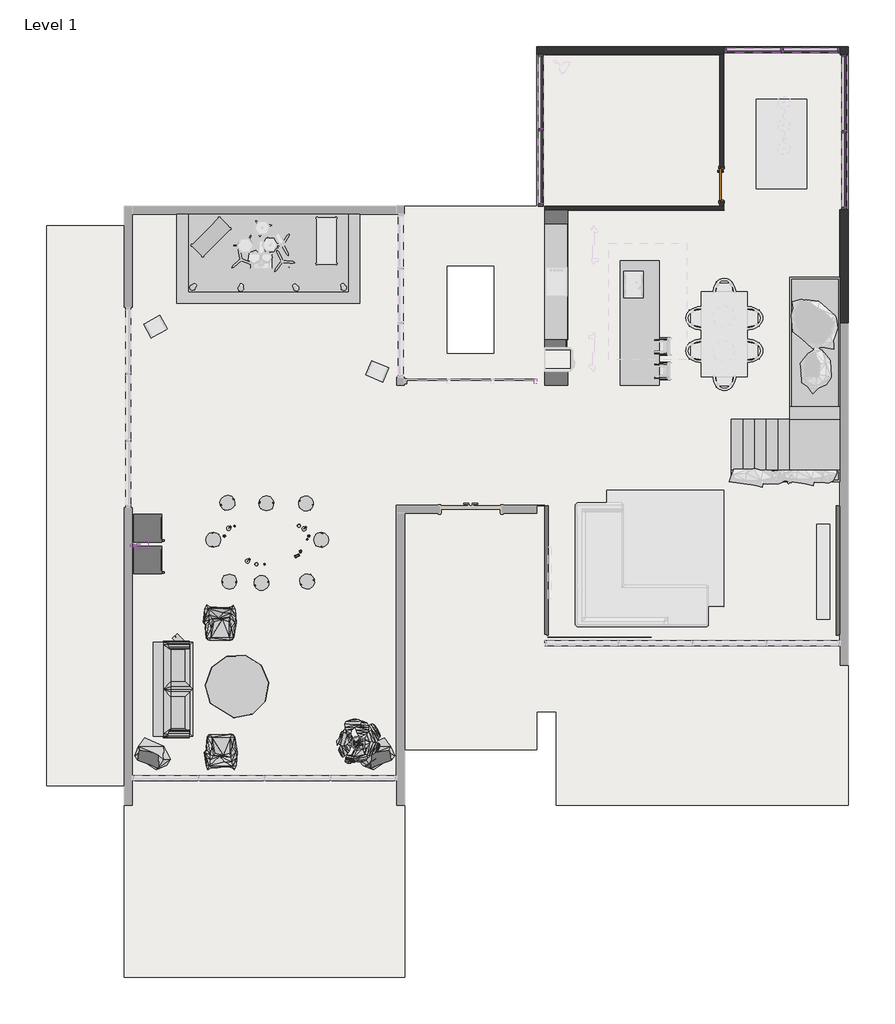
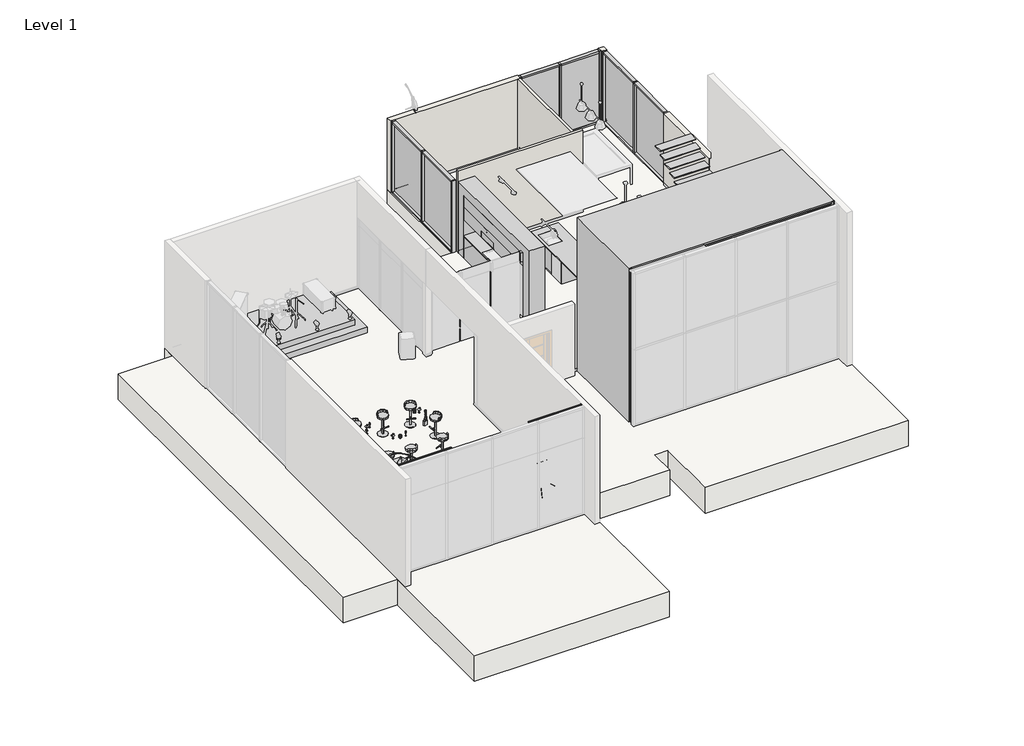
# One storey, part 2 of 6: 31 geographic elements, 22 members, 6 plates, 5 proxies, 4 walls, 1 door, 1 slab, 1 stair, 1 stair flight.
"""IFC4 building model written with IfcOpenShell, lengths in millimetres."""

from ifc_helpers import new_model, si_unit, origin, origin_with_axes, place, context, project, spatial, polyline, outline, extrude, faceted_brep, transform, mapped, element, save
from components import generic_models_2_generic_models_2_3d615542, generic_models_3_generic_models_3_a327e094, generic_models_5_generic_models_5_d8dfdb0c, generic_models_6_generic_models_6_396b13c4, generic_models_8_generic_models_8_2f0d4162, door_interior_single_flush_panel_wood_door_interior_single_6c8a464a, geographic_element_f887d327, enscape_assetdefinition_armchair_039_enscape_assetdefinition_260125eb, enscape_assetdefinition_armchair_039_enscape_assetdefinition_a928cae4, enscape_assetdefinition_bottle_005_wine_enscape_f84a86c7, enscape_assetdefinition_bottle_009_enscape_assetdefinition_91462ea6, enscape_assetdefinition_curtain_005_enscape_assetdefinition_7c1d9668, enscape_assetdefinition_curtain_005_enscape_assetdefinition_cb05bf78, enscape_assetdefinition_floor_lamp_022_enscape_d7bdce68, enscape_assetdefinition_glas_010_cocktail_enscape_a5b9dfca, enscape_assetdefinition_glass_001_champagne_enscape_18e854bc, enscape_assetdefinition_glass_007_enscape_assetdefinition_f580d953, enscape_assetdefinition_glass_012_wine_enscape_47986107, enscape_assetdefinition_high_stool_008_enscape_0d8ca105, enscape_assetdefinition_refrigerator_003_enscape_9b18afd8, enscape_assetdefinition_sofa_022_enscape_assetdefinition_23783522, enscape_assetdefinition_speaker_005_enscape_assetdefinition_121e6e26, enscape_assetdefinition_table_079_enscape_assetdefinition_5f5be555, rectangular_mullion_rectangular_mullion_1_b61fd584, rectangular_mullion_rectangular_mullion_1_bbb34006, rectangular_mullion_rectangular_mullion_1_6815c58f, rectangular_mullion_rectangular_mullion_1_f5ac44b7, rectangular_mullion_rectangular_mullion_1_65dfae36, rectangular_mullion_rectangular_mullion_1_45be0f26, system_panel_glazed_8e322f85, system_panel_glazed_21b5dabc, system_panel_glazed_1fbcc06b, stairs_1_stairs_1_c7833afe, stair_flight_b7d4ead4

model = new_model("IFC4")

# Units and contexts
model_context = context("Model", 3, world=origin())
ifc_project = project(units=[si_unit("LENGTHUNIT", "METRE", prefix="MILLI")], contexts=[model_context])

# Site, building, storey
site = spatial("IfcSite", under=ifc_project)
building = spatial("IfcBuilding", under=site)
storey = spatial("IfcBuildingStorey", under=building, Name="Level 1", Elevation=1000.0)

# Proxies
placement = place(None, origin())
generic_models_2_generic_models_2_shape = generic_models_2_generic_models_2_3d615542(model_context)
element("IfcBuildingElementProxy", 1, Name="Generic Models 2 : Generic Models 2", ObjectType="Generic Models 2 : Generic Models 2", at=placement, inside=storey, context=model_context, shape_type="MappedRepresentation", body=[
    mapped(generic_models_2_generic_models_2_shape, transform((0.0, 0.0, 0.0), x_axis=(1.0, 0.0, 0.0), y_axis=(0.0, 1.0, 0.0), z_axis=(0.0, 0.0, 1.0))),
])
generic_models_3_generic_models_3_shape = generic_models_3_generic_models_3_a327e094(model_context)
element("IfcBuildingElementProxy", 2, Name="Generic Models 3 : Generic Models 3", ObjectType="Generic Models 3 : Generic Models 3", at=placement, inside=storey, context=model_context, shape_type="MappedRepresentation", body=[
    mapped(generic_models_3_generic_models_3_shape, transform((0.0, 0.0, 0.0), x_axis=(1.0, 0.0, 0.0), y_axis=(0.0, 1.0, 0.0), z_axis=(0.0, 0.0, 1.0))),
])
generic_models_5_generic_models_5_shape = generic_models_5_generic_models_5_d8dfdb0c(model_context)
element("IfcBuildingElementProxy", 3, Name="Generic Models 5 : Generic Models 5", ObjectType="Generic Models 5 : Generic Models 5", at=placement, inside=storey, context=model_context, shape_type="MappedRepresentation", body=[
    mapped(generic_models_5_generic_models_5_shape, transform((0.0, 0.0, 0.0), x_axis=(1.0, 0.0, 0.0), y_axis=(0.0, 1.0, 0.0), z_axis=(0.0, 0.0, 1.0))),
])
generic_models_6_generic_models_6_shape = generic_models_6_generic_models_6_396b13c4(model_context)
element("IfcBuildingElementProxy", 4, Name="Generic Models 6 : Generic Models 6", ObjectType="Generic Models 6 : Generic Models 6", at=placement, inside=storey, context=model_context, shape_type="MappedRepresentation", body=[
    mapped(generic_models_6_generic_models_6_shape, transform((0.0, 0.0, 0.0), x_axis=(1.0, 0.0, 0.0), y_axis=(0.0, 1.0, 0.0), z_axis=(0.0, 0.0, 1.0))),
])
generic_models_8_generic_models_8_shape = generic_models_8_generic_models_8_2f0d4162(model_context)
element("IfcBuildingElementProxy", 5, Name="Generic Models 8 : Generic Models 8", ObjectType="Generic Models 8 : Generic Models 8", at=placement, inside=storey, context=model_context, shape_type="MappedRepresentation", body=[
    mapped(generic_models_8_generic_models_8_shape, transform((0.0, 0.0, 0.0), x_axis=(1.0, 0.0, 0.0), y_axis=(0.0, 1.0, 0.0), z_axis=(0.0, 0.0, 1.0))),
])

# Door
door_interior_single_flush_panel_wood_door_interior_single_shape = door_interior_single_flush_panel_wood_door_interior_single_6c8a464a(model_context)
element("IfcDoor", 6, ObjectType="Door-Interior-Single-Flush_Panel-Wood : Door-Interior-Single-Flush_Panel-Wood", at=placement, inside=storey, context=model_context, shape_type="MappedRepresentation", body=[
    mapped(door_interior_single_flush_panel_wood_door_interior_single_shape, transform((21489.9587784, 13716.9206658, 1000.0), x_axis=(0.0, -1.0, 0.0), y_axis=(1.0, 0.0, 0.0), z_axis=(0.0, 0.0, 1.0))),
])

# Geographic elements
geographic_element_shape = geographic_element_f887d327(model_context)
element("IfcGeographicElement", 7, ObjectType="Enscape AssetDefinition - Potted Plant 120 Monstera Deliciosa : Enscape AssetDefinition - Potted Plant 120 Monstera Deliciosa", at=placement, inside=storey, context=model_context, shape_type="MappedRepresentation", body=[
    mapped(geographic_element_shape, transform((12153.0541219, -636.0793342, 1000.0), x_axis=(1.0, 0.0, 0.0), y_axis=(0.0, 1.0, 0.0), z_axis=(0.0, 0.0, 1.0))),
])
enscape_assetdefinition_armchair_039_enscape_assetdefinition_shape = enscape_assetdefinition_armchair_039_enscape_assetdefinition_260125eb(model_context)
element("IfcGeographicElement", 8, ObjectType="Enscape AssetDefinition - Armchair 039 : Enscape AssetDefinition - Armchair 039", at=placement, inside=storey, context=model_context, shape_type="MappedRepresentation", body=[
    mapped(enscape_assetdefinition_armchair_039_enscape_assetdefinition_shape, transform((8603.1337784, 2446.9206658, 1000.0), x_axis=(1.0, 0.0, 0.0), y_axis=(0.0, 1.0, 0.0), z_axis=(0.0, 0.0, 1.0))),
])
enscape_assetdefinition_armchair_039_enscape_assetdefinition_2_shape = enscape_assetdefinition_armchair_039_enscape_assetdefinition_a928cae4(model_context)
element("IfcGeographicElement", 9, ObjectType="Enscape AssetDefinition - Armchair 039 : Enscape AssetDefinition - Armchair 039", at=placement, inside=storey, context=model_context, shape_type="MappedRepresentation", body=[
    mapped(enscape_assetdefinition_armchair_039_enscape_assetdefinition_2_shape, transform((8628.8736845, -852.1678875, 1000.0), x_axis=(1.0, 0.0, 0.0), y_axis=(0.0, 1.0, 0.0), z_axis=(0.0, 0.0, 1.0))),
])
enscape_assetdefinition_bottle_005_wine_enscape_shape = enscape_assetdefinition_bottle_005_wine_enscape_f84a86c7(model_context)
element("IfcGeographicElement", 10, ObjectType="Enscape AssetDefinition - Bottle 005 Wine : Enscape AssetDefinition - Bottle 005 Wine", at=placement, inside=storey, context=model_context, shape_type="MappedRepresentation", body=[
    mapped(enscape_assetdefinition_bottle_005_wine_enscape_shape, transform((10672.5198078, 4290.401573, 1900.0), x_axis=(1.0, 0.0, 0.0), y_axis=(0.0, 1.0, 0.0), z_axis=(0.0, 0.0, 1.0))),
])
enscape_assetdefinition_bottle_009_enscape_assetdefinition_shape = enscape_assetdefinition_bottle_009_enscape_assetdefinition_91462ea6(model_context)
element("IfcGeographicElement", 11, ObjectType="Enscape AssetDefinition - Bottle 009 : Enscape AssetDefinition - Bottle 009", at=placement, inside=storey, context=model_context, shape_type="MappedRepresentation", body=[
    mapped(enscape_assetdefinition_bottle_009_enscape_assetdefinition_shape, transform((10583.0264369, 4178.7532144, 1900.0), x_axis=(0.920504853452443, 0.39073112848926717, 0.0), y_axis=(-0.39073112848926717, 0.920504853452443, 0.0), z_axis=(0.0, 0.0, 1.0))),
])
enscape_assetdefinition_curtain_005_enscape_assetdefinition_shape = enscape_assetdefinition_curtain_005_enscape_assetdefinition_7c1d9668(model_context)
element("IfcGeographicElement", 12, ObjectType="Enscape AssetDefinition - Curtain 005 : Enscape AssetDefinition - Curtain 005 2", at=placement, inside=storey, context=model_context, shape_type="MappedRepresentation", body=[
    mapped(enscape_assetdefinition_curtain_005_enscape_assetdefinition_shape, transform((7343.1337784, -1433.0793342, 1000.0), x_axis=(-1.0, 0.0, 0.0), y_axis=(0.0, -1.0, 0.0), z_axis=(0.0, 0.0, 1.0))),
])
enscape_assetdefinition_curtain_005_enscape_assetdefinition_2_shape = enscape_assetdefinition_curtain_005_enscape_assetdefinition_cb05bf78(model_context)
element("IfcGeographicElement", 13, ObjectType="Enscape AssetDefinition - Curtain 005 : Enscape AssetDefinition - Curtain 005 2", at=placement, inside=storey, context=model_context, shape_type="MappedRepresentation", body=[
    mapped(enscape_assetdefinition_curtain_005_enscape_assetdefinition_2_shape, transform((12153.0541219, -1433.0793342, 1000.0), x_axis=(1.0, 0.0, 0.0), y_axis=(0.0, 1.0, 0.0), z_axis=(0.0, 0.0, 1.0))),
])
enscape_assetdefinition_floor_lamp_022_enscape_shape = enscape_assetdefinition_floor_lamp_022_enscape_d7bdce68(model_context)
element("IfcGeographicElement", 14, ObjectType="Enscape AssetDefinition - Floor Lamp 022 : Enscape AssetDefinition - Floor Lamp 022", at=placement, inside=storey, context=model_context, shape_type="MappedRepresentation", body=[
    mapped(enscape_assetdefinition_floor_lamp_022_enscape_shape, transform((8249.7319068, 1304.8291885, 1000.0), x_axis=(0.7071067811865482, 0.707106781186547, 0.0), y_axis=(-0.707106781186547, 0.7071067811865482, 0.0), z_axis=(0.0, 0.0, 1.0))),
])
enscape_assetdefinition_glas_010_cocktail_enscape_shape = enscape_assetdefinition_glas_010_cocktail_enscape_a5b9dfca(model_context)
element("IfcGeographicElement", 15, ObjectType="Enscape AssetDefinition - Glas 010 Cocktail : Enscape AssetDefinition - Glas 010 Cocktail", at=placement, inside=storey, context=model_context, shape_type="MappedRepresentation", body=[
    mapped(enscape_assetdefinition_glas_010_cocktail_enscape_shape, transform((8824.7641636, 4881.1648044, 1900.0), x_axis=(0.5735764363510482, 0.8191520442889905, 0.0), y_axis=(-0.8191520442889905, 0.5735764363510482, 0.0), z_axis=(0.0, 0.0, 1.0))),
])
element("IfcGeographicElement", 16, ObjectType="Enscape AssetDefinition - Glas 010 Cocktail : Enscape AssetDefinition - Glas 010 Cocktail", at=placement, inside=storey, context=model_context, shape_type="MappedRepresentation", body=[
    mapped(enscape_assetdefinition_glas_010_cocktail_enscape_shape, transform((9308.8736845, 4042.2710273, 1900.0), x_axis=(0.5735764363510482, 0.8191520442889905, 0.0), y_axis=(-0.8191520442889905, 0.5735764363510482, 0.0), z_axis=(0.0, 0.0, 1.0))),
])
element("IfcGeographicElement", 17, ObjectType="Enscape AssetDefinition - Glas 010 Cocktail : Enscape AssetDefinition - Glas 010 Cocktail", at=placement, inside=storey, context=model_context, shape_type="MappedRepresentation", body=[
    mapped(enscape_assetdefinition_glas_010_cocktail_enscape_shape, transform((10759.0189625, 4870.6635108, 1900.0), x_axis=(0.5735764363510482, 0.8191520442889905, 0.0), y_axis=(-0.8191520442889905, 0.5735764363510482, 0.0), z_axis=(0.0, 0.0, 1.0))),
])
enscape_assetdefinition_glass_001_champagne_enscape_shape = enscape_assetdefinition_glass_001_champagne_enscape_18e854bc(model_context)
element("IfcGeographicElement", 18, ObjectType="Enscape AssetDefinition - Glass 001 Champagne : Enscape AssetDefinition - Glass 001 Champagne", at=placement, inside=storey, context=model_context, shape_type="MappedRepresentation", body=[
    mapped(enscape_assetdefinition_glass_001_champagne_enscape_shape, transform((10843.6872019, 4600.8718243, 1900.0), x_axis=(1.0, 0.0, 0.0), y_axis=(0.0, 1.0, 0.0), z_axis=(0.0, 0.0, 1.0))),
])
element("IfcGeographicElement", 19, ObjectType="Enscape AssetDefinition - Glass 001 Champagne : Enscape AssetDefinition - Glass 001 Champagne", at=placement, inside=storey, context=model_context, shape_type="MappedRepresentation", body=[
    mapped(enscape_assetdefinition_glass_001_champagne_enscape_shape, transform((8972.0078119, 4942.7974269, 1900.0), x_axis=(1.0, 0.0, 0.0), y_axis=(0.0, 1.0, 0.0), z_axis=(0.0, 0.0, 1.0))),
])
element("IfcGeographicElement", 20, ObjectType="Enscape AssetDefinition - Glass 001 Champagne : Enscape AssetDefinition - Glass 001 Champagne", at=placement, inside=storey, context=model_context, shape_type="MappedRepresentation", body=[
    mapped(enscape_assetdefinition_glass_001_champagne_enscape_shape, transform((9741.3634148, 3964.5354461, 1900.0), x_axis=(1.0, 0.0, 0.0), y_axis=(0.0, 1.0, 0.0), z_axis=(0.0, 0.0, 1.0))),
])
enscape_assetdefinition_glass_007_enscape_assetdefinition_shape = enscape_assetdefinition_glass_007_enscape_assetdefinition_f580d953(model_context)
element("IfcGeographicElement", 21, ObjectType="Enscape AssetDefinition - Glass 007 : Enscape AssetDefinition - Glass 007", at=placement, inside=storey, context=model_context, shape_type="MappedRepresentation", body=[
    mapped(enscape_assetdefinition_glass_007_enscape_assetdefinition_shape, transform((9536.5868219, 3960.5513757, 1900.0), x_axis=(1.0, 0.0, 0.0), y_axis=(0.0, 1.0, 0.0), z_axis=(0.0, 0.0, 1.0))),
])
element("IfcGeographicElement", 22, ObjectType="Enscape AssetDefinition - Glass 007 : Enscape AssetDefinition - Glass 007", at=placement, inside=storey, context=model_context, shape_type="MappedRepresentation", body=[
    mapped(enscape_assetdefinition_glass_007_enscape_assetdefinition_shape, transform((10629.4694683, 4947.8002801, 1900.0), x_axis=(1.0, 0.0, 0.0), y_axis=(0.0, 1.0, 0.0), z_axis=(0.0, 0.0, 1.0))),
])
enscape_assetdefinition_glass_012_wine_enscape_shape = enscape_assetdefinition_glass_012_wine_enscape_47986107(model_context)
element("IfcGeographicElement", 23, ObjectType="Enscape AssetDefinition - Glass 012 Wine : Enscape AssetDefinition - Glass 012 Wine", at=placement, inside=storey, context=model_context, shape_type="MappedRepresentation", body=[
    mapped(enscape_assetdefinition_glass_012_wine_enscape_shape, transform((8715.486622, 4685.4446791, 1900.0), x_axis=(1.0, 0.0, 0.0), y_axis=(0.0, 1.0, 0.0), z_axis=(0.0, 0.0, 1.0))),
])
element("IfcGeographicElement", 24, ObjectType="Enscape AssetDefinition - Glass 012 Wine : Enscape AssetDefinition - Glass 012 Wine", at=placement, inside=storey, context=model_context, shape_type="MappedRepresentation", body=[
    mapped(enscape_assetdefinition_glass_012_wine_enscape_shape, transform((10886.1235135, 4685.4446791, 1900.0), x_axis=(1.0, 0.0, 0.0), y_axis=(0.0, 1.0, 0.0), z_axis=(0.0, 0.0, 1.0))),
])
enscape_assetdefinition_high_stool_008_enscape_shape = enscape_assetdefinition_high_stool_008_enscape_0d8ca105(model_context)
element("IfcGeographicElement", 25, ObjectType="Enscape AssetDefinition - High Stool 008 : Enscape AssetDefinition - High Stool 008", at=placement, inside=storey, context=model_context, shape_type="MappedRepresentation", body=[
    mapped(enscape_assetdefinition_high_stool_008_enscape_shape, transform((8793.0889586, 5541.813617, 1000.0), x_axis=(0.891006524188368, 0.45399049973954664, 0.0), y_axis=(-0.45399049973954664, 0.891006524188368, 0.0), z_axis=(0.0, 0.0, 1.0))),
])
element("IfcGeographicElement", 26, ObjectType="Enscape AssetDefinition - High Stool 008 : Enscape AssetDefinition - High Stool 008", at=placement, inside=storey, context=model_context, shape_type="MappedRepresentation", body=[
    mapped(enscape_assetdefinition_high_stool_008_enscape_shape, transform((10812.7813029, 5526.559756, 1000.0), x_axis=(0.9612536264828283, -0.2756654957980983, 0.0), y_axis=(0.2756654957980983, 0.9612536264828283, 0.0), z_axis=(0.0, 0.0, 1.0))),
])
element("IfcGeographicElement", 27, ObjectType="Enscape AssetDefinition - High Stool 008 : Enscape AssetDefinition - High Stool 008", at=placement, inside=storey, context=model_context, shape_type="MappedRepresentation", body=[
    mapped(enscape_assetdefinition_high_stool_008_enscape_shape, transform((9792.7813029, 5526.559756, 1000.0), x_axis=(1.0, 0.0, 0.0), y_axis=(0.0, 1.0, 0.0), z_axis=(0.0, 0.0, 1.0))),
])
element("IfcGeographicElement", 28, ObjectType="Enscape AssetDefinition - High Stool 008 : Enscape AssetDefinition - High Stool 008", at=placement, inside=storey, context=model_context, shape_type="MappedRepresentation", body=[
    mapped(enscape_assetdefinition_high_stool_008_enscape_shape, transform((8423.1337784, 4586.9206658, 1000.0), x_axis=(0.0, 1.0, 0.0), y_axis=(-1.0, 0.0, 0.0), z_axis=(0.0, 0.0, 1.0))),
])
element("IfcGeographicElement", 29, ObjectType="Enscape AssetDefinition - High Stool 008 : Enscape AssetDefinition - High Stool 008", at=placement, inside=storey, context=model_context, shape_type="MappedRepresentation", body=[
    mapped(enscape_assetdefinition_high_stool_008_enscape_shape, transform((8839.8834096, 3517.3269619, 1000.0), x_axis=(-1.0, 0.0, 0.0), y_axis=(0.0, -1.0, 0.0), z_axis=(0.0, 0.0, 1.0))),
])
element("IfcGeographicElement", 30, ObjectType="Enscape AssetDefinition - High Stool 008 : Enscape AssetDefinition - High Stool 008", at=placement, inside=storey, context=model_context, shape_type="MappedRepresentation", body=[
    mapped(enscape_assetdefinition_high_stool_008_enscape_shape, transform((9664.0706693, 3476.5312211, 1000.0), x_axis=(-0.9659258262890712, -0.25881904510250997, 0.0), y_axis=(0.25881904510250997, -0.9659258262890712, 0.0), z_axis=(0.0, 0.0, 1.0))),
])
element("IfcGeographicElement", 31, ObjectType="Enscape AssetDefinition - High Stool 008 : Enscape AssetDefinition - High Stool 008", at=placement, inside=storey, context=model_context, shape_type="MappedRepresentation", body=[
    mapped(enscape_assetdefinition_high_stool_008_enscape_shape, transform((10839.8834096, 3517.3269619, 1000.0), x_axis=(-0.9396926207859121, -0.3420201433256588, 0.0), y_axis=(0.3420201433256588, -0.9396926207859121, 0.0), z_axis=(0.0, 0.0, 1.0))),
])
element("IfcGeographicElement", 32, ObjectType="Enscape AssetDefinition - High Stool 008 : Enscape AssetDefinition - High Stool 008", at=placement, inside=storey, context=model_context, shape_type="MappedRepresentation", body=[
    mapped(enscape_assetdefinition_high_stool_008_enscape_shape, transform((11203.1337784, 4586.9206658, 1000.0), x_axis=(0.0, -1.0, 0.0), y_axis=(1.0, 0.0, 0.0), z_axis=(0.0, 0.0, 1.0))),
])
enscape_assetdefinition_refrigerator_003_enscape_shape = enscape_assetdefinition_refrigerator_003_enscape_9b18afd8(model_context)
element("IfcGeographicElement", 33, ObjectType="Enscape AssetDefinition - Refrigerator 003 : Enscape AssetDefinition - Refrigerator 003", at=placement, inside=storey, context=model_context, shape_type="MappedRepresentation", body=[
    mapped(enscape_assetdefinition_refrigerator_003_enscape_shape, transform((6743.1337784, 4067.3763892, 1000.0), x_axis=(0.0, 1.0, 0.0), y_axis=(-1.0, 0.0, 0.0), z_axis=(0.0, 0.0, 1.0))),
])
element("IfcGeographicElement", 34, ObjectType="Enscape AssetDefinition - Refrigerator 003 : Enscape AssetDefinition - Refrigerator 003", at=placement, inside=storey, context=model_context, shape_type="MappedRepresentation", body=[
    mapped(enscape_assetdefinition_refrigerator_003_enscape_shape, transform((6743.1337784, 4887.3763892, 1000.0), x_axis=(0.0, 1.0, 0.0), y_axis=(-1.0, 0.0, 0.0), z_axis=(0.0, 0.0, 1.0))),
])
enscape_assetdefinition_sofa_022_enscape_assetdefinition_shape = enscape_assetdefinition_sofa_022_enscape_assetdefinition_23783522(model_context)
element("IfcGeographicElement", 35, ObjectType="Enscape AssetDefinition - Sofa 022 : Enscape AssetDefinition - Sofa 022", at=placement, inside=storey, context=model_context, shape_type="MappedRepresentation", body=[
    mapped(enscape_assetdefinition_sofa_022_enscape_assetdefinition_shape, transform((7443.1337784, 746.9206658, 1000.0), x_axis=(0.0, 1.0, 0.0), y_axis=(-1.0, 0.0, 0.0), z_axis=(0.0, 0.0, 1.0))),
])
enscape_assetdefinition_speaker_005_enscape_assetdefinition_shape = enscape_assetdefinition_speaker_005_enscape_assetdefinition_121e6e26(model_context)
element("IfcGeographicElement", 36, ObjectType="Enscape AssetDefinition - Speaker 005 : Enscape AssetDefinition - Speaker 005", at=placement, inside=storey, context=model_context, shape_type="MappedRepresentation", body=[
    mapped(enscape_assetdefinition_speaker_005_enscape_assetdefinition_shape, transform((6343.1337784, 4454.720421, 4392.8497555), x_axis=(0.0, 1.0, 0.0), y_axis=(-1.0, 0.0, 0.0), z_axis=(0.0, 0.0, 1.0))),
])
enscape_assetdefinition_table_079_enscape_assetdefinition_shape = enscape_assetdefinition_table_079_enscape_assetdefinition_5f5be555(model_context)
element("IfcGeographicElement", 37, ObjectType="Enscape AssetDefinition - Table 079 : Enscape AssetDefinition - Table 079", at=placement, inside=storey, context=model_context, shape_type="MappedRepresentation", body=[
    mapped(enscape_assetdefinition_table_079_enscape_assetdefinition_shape, transform((9043.1337784, 826.9206658, 1000.0), x_axis=(1.0, 0.0, 0.0), y_axis=(0.0, 1.0, 0.0), z_axis=(0.0, 0.0, 1.0))),
])

# Members
rectangular_mullion_rectangular_mullion_1_shape = rectangular_mullion_rectangular_mullion_1_b61fd584(model_context)
element("IfcMember", 38, ObjectType="Rectangular Mullion : Rectangular Mullion 1", at=placement, inside=storey, context=model_context, shape_type="MappedRepresentation", body=[
    mapped(rectangular_mullion_rectangular_mullion_1_shape, transform((23043.1337784, 17166.9206658, 1000.0), x_axis=(-1.0, 0.0, 0.0), y_axis=(0.0, 1.0, 0.0), z_axis=(0.0, 0.0, -1.0))),
])
element("IfcMember", 39, ObjectType="Rectangular Mullion : Rectangular Mullion 1", at=placement, inside=storey, context=model_context, shape_type="MappedRepresentation", body=[
    mapped(rectangular_mullion_rectangular_mullion_1_shape, transform((16843.1337784, 15116.9206658, 1000.0), x_axis=(0.0, -1.0, 0.0), y_axis=(-1.0, 0.0, 0.0), z_axis=(0.0, 0.0, -1.0))),
])
element("IfcMember", 40, ObjectType="Rectangular Mullion : Rectangular Mullion 1", at=placement, inside=storey, context=model_context, shape_type="MappedRepresentation", body=[
    mapped(rectangular_mullion_rectangular_mullion_1_shape, transform((24643.1337784, 15066.9206658, 1000.0), x_axis=(0.0, -1.0, 0.0), y_axis=(-1.0, 0.0, 0.0), z_axis=(0.0, 0.0, -1.0))),
])
rectangular_mullion_rectangular_mullion_1_2_shape = rectangular_mullion_rectangular_mullion_1_bbb34006(model_context)
element("IfcMember", 41, ObjectType="Rectangular Mullion : Rectangular Mullion 1", at=placement, inside=storey, context=model_context, shape_type="MappedRepresentation", body=[
    mapped(rectangular_mullion_rectangular_mullion_1_2_shape, transform((24543.1337784, 17166.9206658, 3800.0), x_axis=(1.0, 0.0, 0.0), y_axis=(0.0, 1.0, 0.0), z_axis=(0.0, 0.0, 1.0))),
])
element("IfcMember", 42, ObjectType="Rectangular Mullion : Rectangular Mullion 1", at=placement, inside=storey, context=model_context, shape_type="MappedRepresentation", body=[
    mapped(rectangular_mullion_rectangular_mullion_1_2_shape, transform((16843.1337784, 17066.9206658, 3800.0), x_axis=(0.0, 1.0, 0.0), y_axis=(-1.0, 0.0, 0.0), z_axis=(0.0, 0.0, 1.0))),
])
element("IfcMember", 43, ObjectType="Rectangular Mullion : Rectangular Mullion 1", at=placement, inside=storey, context=model_context, shape_type="MappedRepresentation", body=[
    mapped(rectangular_mullion_rectangular_mullion_1_2_shape, transform((24643.1337784, 17066.9206658, 3800.0), x_axis=(0.0, 1.0, 0.0), y_axis=(-1.0, 0.0, 0.0), z_axis=(0.0, 0.0, 1.0))),
])
element("IfcMember", 44, ObjectType="Rectangular Mullion : Rectangular Mullion 1", at=placement, inside=storey, context=model_context, shape_type="MappedRepresentation", body=[
    mapped(rectangular_mullion_rectangular_mullion_1_2_shape, transform((21543.1337784, 17166.9206658, 1000.0), x_axis=(-1.0, 0.0, 0.0), y_axis=(0.0, 1.0, 0.0), z_axis=(0.0, 0.0, -1.0))),
])
element("IfcMember", 45, ObjectType="Rectangular Mullion : Rectangular Mullion 1", at=placement, inside=storey, context=model_context, shape_type="MappedRepresentation", body=[
    mapped(rectangular_mullion_rectangular_mullion_1_2_shape, transform((16843.1337784, 13166.9206658, 1000.0), x_axis=(0.0, -1.0, 0.0), y_axis=(-1.0, 0.0, 0.0), z_axis=(0.0, 0.0, -1.0))),
])
element("IfcMember", 46, ObjectType="Rectangular Mullion : Rectangular Mullion 1", at=placement, inside=storey, context=model_context, shape_type="MappedRepresentation", body=[
    mapped(rectangular_mullion_rectangular_mullion_1_2_shape, transform((24643.1337784, 13066.9206658, 1000.0), x_axis=(0.0, -1.0, 0.0), y_axis=(-1.0, 0.0, 0.0), z_axis=(0.0, 0.0, -1.0))),
])
rectangular_mullion_rectangular_mullion_1_3_shape = rectangular_mullion_rectangular_mullion_1_6815c58f(model_context)
element("IfcMember", 47, ObjectType="Rectangular Mullion : Rectangular Mullion 1", at=placement, inside=storey, context=model_context, shape_type="MappedRepresentation", body=[
    mapped(rectangular_mullion_rectangular_mullion_1_3_shape, transform((23074.8837784, 17166.9206658, 3800.0), x_axis=(0.0, 0.0, 1.0), y_axis=(0.0, 1.0, 0.0), z_axis=(-1.0, 0.0, 0.0))),
])
element("IfcMember", 48, ObjectType="Rectangular Mullion : Rectangular Mullion 1", at=placement, inside=storey, context=model_context, shape_type="MappedRepresentation", body=[
    mapped(rectangular_mullion_rectangular_mullion_1_3_shape, transform((21606.6337784, 17166.9206658, 3800.0), x_axis=(0.0, 0.0, 1.0), y_axis=(0.0, 1.0, 0.0), z_axis=(-1.0, 0.0, 0.0))),
])
element("IfcMember", 49, ObjectType="Rectangular Mullion : Rectangular Mullion 1", at=placement, inside=storey, context=model_context, shape_type="MappedRepresentation", body=[
    mapped(rectangular_mullion_rectangular_mullion_1_3_shape, transform((23011.3837784, 17166.9206658, 1000.0), x_axis=(0.0, 0.0, -1.0), y_axis=(0.0, 1.0, 0.0), z_axis=(1.0, 0.0, 0.0))),
])
element("IfcMember", 50, ObjectType="Rectangular Mullion : Rectangular Mullion 1", at=placement, inside=storey, context=model_context, shape_type="MappedRepresentation", body=[
    mapped(rectangular_mullion_rectangular_mullion_1_3_shape, transform((24479.6337784, 17166.9206658, 1000.0), x_axis=(0.0, 0.0, -1.0), y_axis=(0.0, 1.0, 0.0), z_axis=(1.0, 0.0, 0.0))),
])
rectangular_mullion_rectangular_mullion_1_4_shape = rectangular_mullion_rectangular_mullion_1_f5ac44b7(model_context)
element("IfcMember", 51, ObjectType="Rectangular Mullion : Rectangular Mullion 1", at=placement, inside=storey, context=model_context, shape_type="MappedRepresentation", body=[
    mapped(rectangular_mullion_rectangular_mullion_1_4_shape, transform((16743.1337784, 8666.9206658, 3438.4), x_axis=(1.0, 0.0, 0.0), y_axis=(0.0, -1.0, 0.0), z_axis=(0.0, 0.0, -1.0))),
])
rectangular_mullion_rectangular_mullion_1_5_shape = rectangular_mullion_rectangular_mullion_1_65dfae36(model_context)
element("IfcMember", 52, ObjectType="Rectangular Mullion : Rectangular Mullion 1", at=placement, inside=storey, context=model_context, shape_type="MappedRepresentation", body=[
    mapped(rectangular_mullion_rectangular_mullion_1_5_shape, transform((16843.1337784, 15148.6706658, 3800.0), x_axis=(0.0, 0.0, 1.0), y_axis=(-1.0, 0.0, 0.0), z_axis=(0.0, -1.0, 0.0))),
])
element("IfcMember", 53, ObjectType="Rectangular Mullion : Rectangular Mullion 1", at=placement, inside=storey, context=model_context, shape_type="MappedRepresentation", body=[
    mapped(rectangular_mullion_rectangular_mullion_1_5_shape, transform((16843.1337784, 13230.4206658, 3800.0), x_axis=(0.0, 0.0, 1.0), y_axis=(-1.0, 0.0, 0.0), z_axis=(0.0, -1.0, 0.0))),
])
element("IfcMember", 54, ObjectType="Rectangular Mullion : Rectangular Mullion 1", at=placement, inside=storey, context=model_context, shape_type="MappedRepresentation", body=[
    mapped(rectangular_mullion_rectangular_mullion_1_5_shape, transform((16843.1337784, 15085.1706658, 1000.0), x_axis=(0.0, 0.0, -1.0), y_axis=(-1.0, 0.0, 0.0), z_axis=(0.0, 1.0, 0.0))),
])
element("IfcMember", 55, ObjectType="Rectangular Mullion : Rectangular Mullion 1", at=placement, inside=storey, context=model_context, shape_type="MappedRepresentation", body=[
    mapped(rectangular_mullion_rectangular_mullion_1_5_shape, transform((16843.1337784, 17003.4206658, 1000.0), x_axis=(0.0, 0.0, -1.0), y_axis=(-1.0, 0.0, 0.0), z_axis=(0.0, 1.0, 0.0))),
])
rectangular_mullion_rectangular_mullion_1_6_shape = rectangular_mullion_rectangular_mullion_1_45be0f26(model_context)
element("IfcMember", 56, ObjectType="Rectangular Mullion : Rectangular Mullion 1", at=placement, inside=storey, context=model_context, shape_type="MappedRepresentation", body=[
    mapped(rectangular_mullion_rectangular_mullion_1_6_shape, transform((24643.1337784, 15035.1706658, 1000.0), x_axis=(0.0, 0.0, -1.0), y_axis=(-1.0, 0.0, 0.0), z_axis=(0.0, 1.0, 0.0))),
])
element("IfcMember", 57, ObjectType="Rectangular Mullion : Rectangular Mullion 1", at=placement, inside=storey, context=model_context, shape_type="MappedRepresentation", body=[
    mapped(rectangular_mullion_rectangular_mullion_1_6_shape, transform((24643.1337784, 17003.4206658, 1000.0), x_axis=(0.0, 0.0, -1.0), y_axis=(-1.0, 0.0, 0.0), z_axis=(0.0, 1.0, 0.0))),
])
element("IfcMember", 58, ObjectType="Rectangular Mullion : Rectangular Mullion 1", at=placement, inside=storey, context=model_context, shape_type="MappedRepresentation", body=[
    mapped(rectangular_mullion_rectangular_mullion_1_6_shape, transform((24643.1337784, 15098.6706658, 3800.0), x_axis=(0.0, 0.0, 1.0), y_axis=(-1.0, 0.0, 0.0), z_axis=(0.0, -1.0, 0.0))),
])
element("IfcMember", 59, ObjectType="Rectangular Mullion : Rectangular Mullion 1", at=placement, inside=storey, context=model_context, shape_type="MappedRepresentation", body=[
    mapped(rectangular_mullion_rectangular_mullion_1_6_shape, transform((24643.1337784, 13130.4206658, 3800.0), x_axis=(0.0, 0.0, 1.0), y_axis=(-1.0, 0.0, 0.0), z_axis=(0.0, -1.0, 0.0))),
])

# Plates
system_panel_glazed_shape = system_panel_glazed_8e322f85(model_context)
element("IfcPlate", 60, ObjectType="System Panel : Glazed", at=placement, inside=storey, context=model_context, shape_type="MappedRepresentation", body=[
    mapped(system_panel_glazed_shape, transform((23777.2587784, 17166.9206658, 1063.5), x_axis=(-1.0, 0.0, 0.0), y_axis=(0.0, -1.0, 0.0), z_axis=(0.0, 0.0, 1.0))),
])
element("IfcPlate", 61, ObjectType="System Panel : Glazed", at=placement, inside=storey, context=model_context, shape_type="MappedRepresentation", body=[
    mapped(system_panel_glazed_shape, transform((22309.0087784, 17166.9206658, 1063.5), x_axis=(-1.0, 0.0, 0.0), y_axis=(0.0, -1.0, 0.0), z_axis=(0.0, 0.0, 1.0))),
])
system_panel_glazed_2_shape = system_panel_glazed_21b5dabc(model_context)
element("IfcPlate", 62, ObjectType="System Panel : Glazed", at=placement, inside=storey, context=model_context, shape_type="MappedRepresentation", body=[
    mapped(system_panel_glazed_2_shape, transform((16843.1337784, 16076.0456658, 1063.5), x_axis=(0.0, -1.0, 0.0), y_axis=(1.0, 0.0, 0.0), z_axis=(0.0, 0.0, 1.0))),
])
element("IfcPlate", 63, ObjectType="System Panel : Glazed", at=placement, inside=storey, context=model_context, shape_type="MappedRepresentation", body=[
    mapped(system_panel_glazed_2_shape, transform((16843.1337784, 14157.7956658, 1063.5), x_axis=(0.0, -1.0, 0.0), y_axis=(1.0, 0.0, 0.0), z_axis=(0.0, 0.0, 1.0))),
])
system_panel_glazed_3_shape = system_panel_glazed_1fbcc06b(model_context)
element("IfcPlate", 64, ObjectType="System Panel : Glazed", at=placement, inside=storey, context=model_context, shape_type="MappedRepresentation", body=[
    mapped(system_panel_glazed_3_shape, transform((24643.1337784, 16051.0456658, 1063.5), x_axis=(0.0, -1.0, 0.0), y_axis=(1.0, 0.0, 0.0), z_axis=(0.0, 0.0, 1.0))),
])
element("IfcPlate", 65, ObjectType="System Panel : Glazed", at=placement, inside=storey, context=model_context, shape_type="MappedRepresentation", body=[
    mapped(system_panel_glazed_3_shape, transform((24643.1337784, 14082.7956658, 1063.5), x_axis=(0.0, -1.0, 0.0), y_axis=(1.0, 0.0, 0.0), z_axis=(0.0, 0.0, 1.0))),
])

# Slab
element("IfcSlab", 66, ObjectType="Concrete Slab - 6\" 2", at=placement, inside=storey, context=model_context, shape_type="SweptSolid", body=[
    extrude(outline(polyline([(16743.1337784, 13166.9206658), (16743.1337784, 17266.9206658), (24743.1337784, 17266.9206658), (24743.1337784, -2233.0793342), (17243.1337784, -2233.0793342), (17243.1337784, 166.9206658), (16743.1337784, 166.9206658), (16743.1337784, -810.6793342), (13343.1337784, -810.6793342), (13343.1337784, -6658.2564752), (6143.1337784, -6658.2564752), (6143.1337784, -1733.0793342), (4143.1337784, -1733.0793342), (4143.1337784, 12666.9206658), (6143.1337784, 12666.9206658), (6143.1337784, 13166.9206658), (16743.1337784, 13166.9206658)]), holes=[polyline([(15643.1337784, 11616.4728324), (14443.1337784, 11616.4728324), (14443.1337784, 9379.9728324), (15643.1337784, 9379.9728324), (15643.1337784, 11616.4728324)])]), origin_with_axes(), (0.0, 0.0, 1.0), 1000.0),
])

# Stair
stairs_1_stairs_1_shape = stairs_1_stairs_1_c7833afe(model_context)
element("IfcStair", 67, ObjectType="Stairs 1 : Stairs 1", at=placement, inside=storey, context=model_context, shape_type="MappedRepresentation", body=[
    mapped(stairs_1_stairs_1_shape, transform((0.0, 0.0, 0.0), x_axis=(1.0, 0.0, 0.0), y_axis=(0.0, 1.0, 0.0), z_axis=(0.0, 0.0, 1.0))),
])

# Stair flight
stair_flight_shape = stair_flight_b7d4ead4(model_context)
element("IfcStairFlight", 68, ObjectType="2\" Tread 1\" Nosing 1/4\" Riser", at=placement, inside=storey, context=model_context, shape_type="MappedRepresentation", body=[
    mapped(stair_flight_shape, transform((0.0, 0.0, 0.0), x_axis=(1.0, 0.0, 0.0), y_axis=(0.0, 1.0, 0.0), z_axis=(0.0, 0.0, 1.0))),
])

# Walls
element("IfcWall", 69, ObjectType="Generic - 10 cm", at=placement, inside=storey, context=model_context, shape_type="Brep", body=[
    faceted_brep([(16943.1337784, 13066.9206658, 1000.0), (21543.1337784, 13066.9206658, 1000.0), (21543.1337784, 13066.9206658, 1100.0), (21543.1337784, 13066.9206658, 4200.0), (16943.1337784, 13066.9206658, 4200.0), (16943.1337784, 13066.9206658, 1100.0), (21543.1337784, 13166.9206658, 1000.0), (21443.1337784, 13166.9206658, 1000.0), (16943.1337784, 13166.9206658, 1000.0), (16943.1337784, 13166.9206658, 3800.0), (16943.1337784, 13166.9206658, 4200.0), (21543.1337784, 13166.9206658, 4200.0), (21543.1337784, 13166.9206658, 3800.0), (21543.1337784, 13166.9206658, 1100.0)], [[[0, 1, 2, 3, 4, 5]], [[6, 7, 8, 9, 10, 11, 12, 13]], [[1, 0, 8, 7, 6]], [[4, 3, 11, 10]], [[1, 6, 13, 12, 11, 3, 2]], [[4, 10, 9, 8, 0, 5]]]),
])
element("IfcWall", 70, ObjectType="Generic - 10 cm", at=placement, inside=storey, context=model_context, shape_type="Brep", body=[
    faceted_brep([(21443.1337784, 13285.1206658, 1000.0), (21443.1337784, 13166.9206658, 1000.0), (21443.1337784, 13166.9206658, 3800.0), (21443.1337784, 17066.9206658, 3800.0), (21443.1337784, 17066.9206658, 1000.0), (21443.1337784, 14148.7206658, 1000.0), (21443.1337784, 14148.7206658, 3057.4), (21443.1337784, 13285.1206658, 3057.4), (21543.1337784, 13166.9206658, 1000.0), (21543.1337784, 13285.1206658, 1000.0), (21543.1337784, 13285.1206658, 1100.0), (21543.1337784, 13285.1206658, 3057.4), (21543.1337784, 14148.7206658, 3057.4), (21543.1337784, 14148.7206658, 1100.0), (21543.1337784, 14148.7206658, 1000.0), (21543.1337784, 17066.9206658, 1000.0), (21543.1337784, 17066.9206658, 1100.0), (21543.1337784, 17066.9206658, 3800.0), (21543.1337784, 13166.9206658, 3800.0), (21543.1337784, 13166.9206658, 1100.0)], [[[0, 1, 2, 3, 4, 5, 6, 7]], [[8, 9, 10, 11, 12, 13, 14, 15, 16, 17, 18, 19]], [[4, 15, 14, 5]], [[8, 1, 0, 9]], [[1, 8, 19, 18, 2]], [[15, 4, 3, 17, 16]], [[7, 11, 10, 9, 0]], [[11, 7, 6, 12]], [[12, 6, 5, 14, 13]], [[3, 2, 18, 17]]]),
])
element("IfcWall", 71, ObjectType="Generic - 8\"", at=placement, inside=storey, context=model_context, shape_type="Brep", body=[
    faceted_brep([(24743.1337784, 17266.9206658, 3800.0), (24743.1337784, 17266.9206658, 1000.0), (24543.1337784, 17266.9206658, 1000.0), (24543.1337784, 17266.9206658, 3800.0), (24743.1337784, 17066.9206658, 3800.0), (24543.1337784, 17066.9206658, 3800.0), (24543.1337784, 17066.9206658, 1100.0), (24543.1337784, 17066.9206658, 1000.0), (24743.1337784, 17066.9206658, 1000.0), (24743.1337784, 17066.9206658, 1100.0)], [[[0, 1, 2, 3]], [[4, 5, 6, 7, 8, 9]], [[1, 8, 7, 2]], [[4, 0, 3, 5]], [[1, 0, 4, 9, 8]], [[3, 2, 7, 6, 5]]]),
    faceted_brep([(21543.1337784, 17266.9206658, 1000.0), (16743.1337784, 17266.9206658, 1000.0), (16743.1337784, 17266.9206658, 3800.0), (21543.1337784, 17266.9206658, 3800.0), (21543.1337784, 17066.9206658, 3800.0), (21443.1337784, 17066.9206658, 3800.0), (16743.1337784, 17066.9206658, 3800.0), (16743.1337784, 17066.9206658, 1000.0), (16943.1337784, 17066.9206658, 1000.0), (21443.1337784, 17066.9206658, 1000.0), (21543.1337784, 17066.9206658, 1000.0), (21543.1337784, 17066.9206658, 1100.0)], [[[0, 1, 2, 3]], [[4, 5, 6, 7, 8, 9, 10, 11]], [[1, 0, 10, 9, 8, 7]], [[3, 2, 6, 5, 4]], [[0, 3, 4, 11, 10]], [[2, 1, 7, 6]]]),
])
element("IfcWall", 72, ObjectType="Generic - 8\"", at=placement, inside=storey, context=model_context, shape_type="Brep", body=[
    faceted_brep([(24743.1337784, 10154.720421, 3800.0), (24743.1337784, 10154.720421, 1000.0), (24743.1337784, 13066.9206658, 1000.0), (24743.1337784, 13066.9206658, 3800.0), (24543.1337784, 10154.720421, 3800.0), (24543.1337784, 11342.257391, 3800.0), (24543.1337784, 13066.9206658, 3800.0), (24543.1337784, 13066.9206658, 1100.0), (24543.1337784, 13066.9206658, 1000.0), (24543.1337784, 10154.720421, 1000.0), (24543.1337784, 10154.720421, 1100.0)], [[[0, 1, 2, 3]], [[4, 5, 6, 7, 8, 9, 10]], [[1, 9, 8, 2]], [[4, 0, 3, 6, 5]], [[1, 0, 4, 10, 9]], [[3, 2, 8, 7, 6]]]),
])

save(model, "model.ifc")
